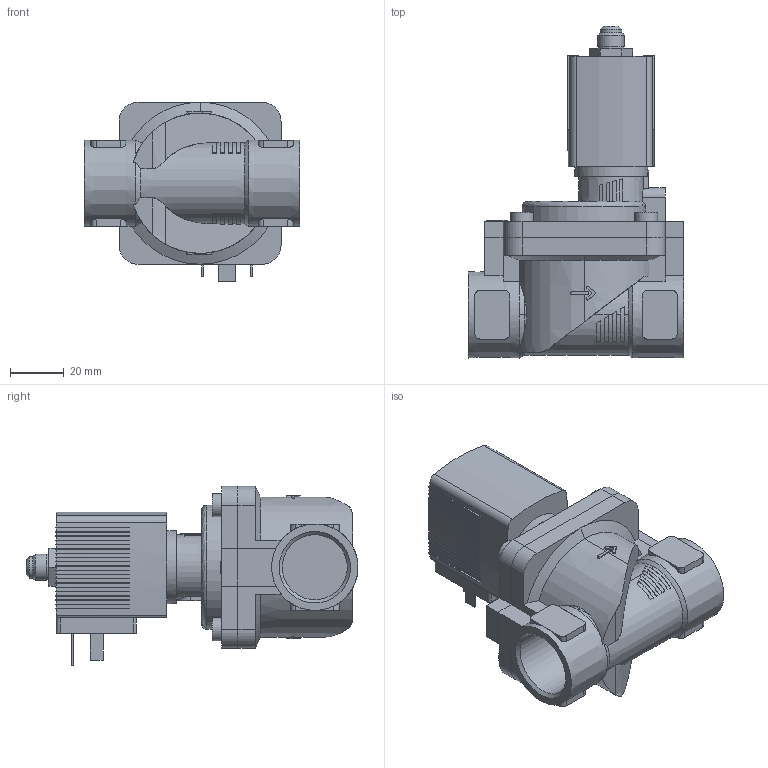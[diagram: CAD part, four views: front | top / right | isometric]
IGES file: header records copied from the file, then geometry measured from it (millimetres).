
Start section: Data from Parasolid IGES Translator 26.0.171, Copyright(c) 2006 Siemens PLM Software. All Rights Reserved.
Global section: file name: 6281-338197-2_2-Way_Solenoid_Valve__Servo-assisted__General_Purpose.igs; native system: By Siemens PLM Incorporated; preprocessor: XPlus GENERIC/IGES 26.0.171; author: Noname; organization: Noname; date: 20240527.101643; units: millimetre
Bounding box: 80 x 123 x 66.5 mm (x, y, z)
Surface area: 43338.6 mm2 (no closed solid volume)
Topology: 0 solids, 0 shells, 558 faces, 3110 edges, 3096 vertices
Faces by surface type: extrusion 430, revolution 128
